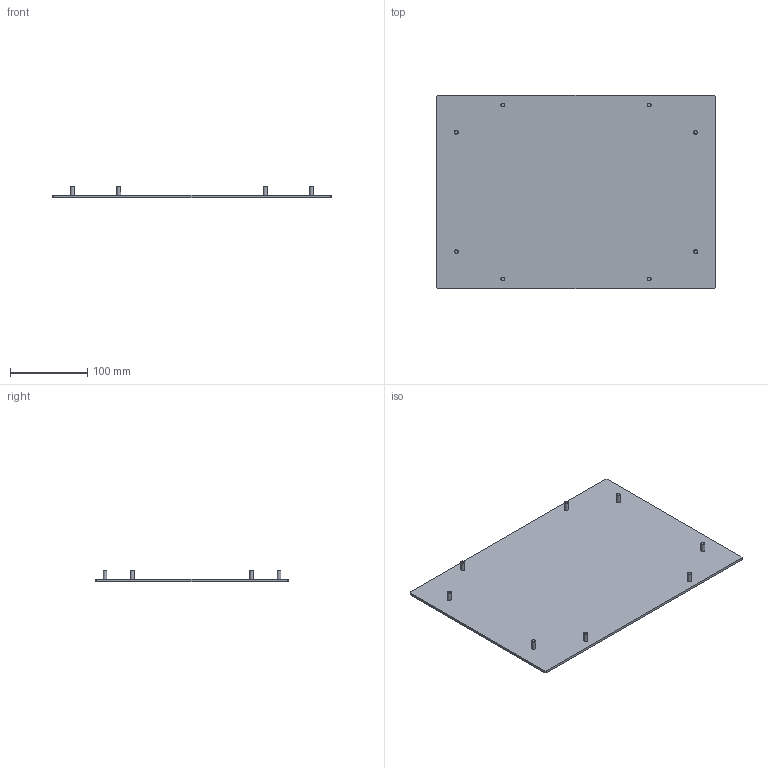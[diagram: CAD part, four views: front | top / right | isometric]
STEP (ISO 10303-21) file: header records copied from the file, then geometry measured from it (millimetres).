
FILE_DESCRIPTION((''),'2;1');
FILE_NAME('D:\scratch\ideas\wmt_plate_250x350.stp', '2006-06-22T13:03:12',('User'),('SDRC'),'I-DEAS Master Series 9','UNIX', 'Yes');
FILE_SCHEMA(('AUTOMOTIVE_DESIGN { 1 0 10303 214 0 1 1 1 }'));
Length unit declared in the file: inch
Products named in the file (3): 16227; plate_front; 87541671
Assembly tree (9 placements, depth 2):
  16227
    plate_front
    87541671  x8
Bounding box: 361.3 x 250.4 x 15 mm (x, y, z)
Volume: 289092.8 mm3; surface area: 187062.7 mm2
Topology: 9 solids, 9 shells, 50 faces, 88 edges, 56 vertices
Faces by surface type: bspline 50
Entity records: 1044 total; most frequent: CARTESIAN_POINT 455, ORIENTED_EDGE 106, EDGE_CURVE 53, DIRECTION 38, EDGE_LOOP 38, VERTEX_POINT 35, FACE_OUTER_BOUND 22, ADVANCED_FACE 22
